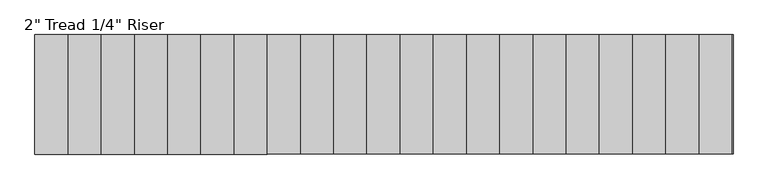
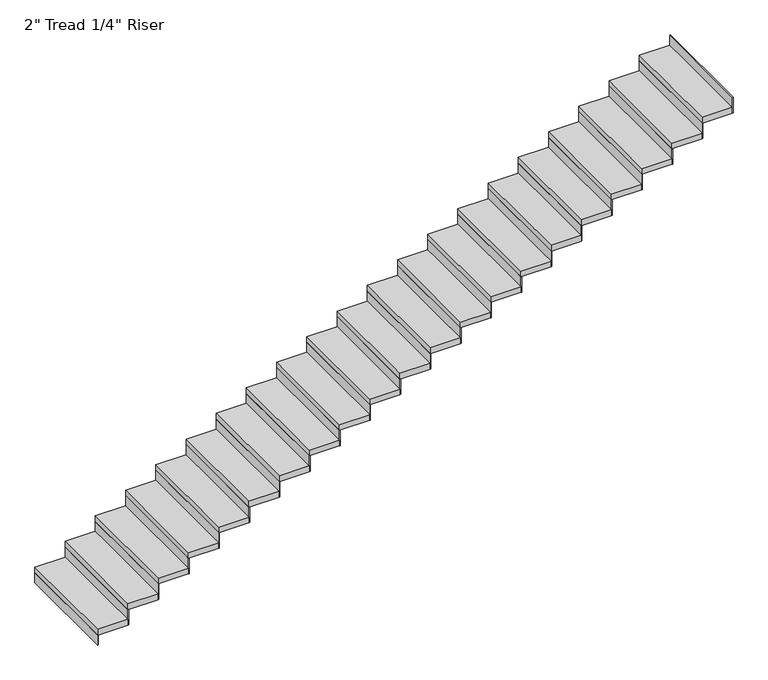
"""IFC4 building model written with IfcOpenShell, lengths in millimetres: stair flight geometry."""

import ifcopenshell
import ifcopenshell.guid

model = None  # the IFC model being written
_history = None  # IfcOwnerHistory: only IFC2X3 demands one
_inside = {}  # id of a spatial element -> (the spatial element, [elements in it])
_under = {}  # id of a project, library or spatial element -> (it, [spatial elements below it])
_declared = {}  # id of a project -> (the project, [libraries it declares])
_typed = {}  # id of a type object -> (the type object, [elements of that type])
_made_of = {}  # id of a material, layer set ... -> (it, [elements and type objects made of it])


def new_model(schema):
    """Start an empty IFC model of exactly this schema.

    Asked for "IFC4X3", IfcOpenShell would pick the latest addendum, in which some entities
    have other attributes; the version numbers below select the first issue.
    IFC2X3 requires an IfcOwnerHistory on every rooted entity: one is made here for all.
    """
    global model, _history
    if schema == "IFC4X3":
        model = ifcopenshell.file(schema_version=(4, 3, 0, 0))
    else:
        model = ifcopenshell.file(schema=schema)
    _inside.clear()
    _under.clear()
    _declared.clear()
    _typed.clear()
    _made_of.clear()
    _history = None
    if model.schema == "IFC2X3":
        org = make("IfcOrganization", Name="unknown")
        user = make(
            "IfcPersonAndOrganization",
            ThePerson=make("IfcPerson", FamilyName="unknown"),
            TheOrganization=org,
        )
        app = make(
            "IfcApplication",
            ApplicationDeveloper=org,
            Version="unknown",
            ApplicationFullName="unknown",
            ApplicationIdentifier="unknown",
        )
        _history = make(
            "IfcOwnerHistory",
            OwningUser=user,
            OwningApplication=app,
            ChangeAction="ADDED",
            CreationDate=0,
        )
    return model


def make(cls, **values):
    """One entity of the class cls with the attributes given. An attribute that is None is left unset."""
    return model.create_entity(
        cls, **{name: value for name, value in values.items() if value is not None}
    )


def rooted(cls, **values):
    """An entity with a GlobalId (a new one), such as an element, a storey or a relation."""
    return make(cls, GlobalId=ifcopenshell.guid.new(), OwnerHistory=_history, **values)


def si_unit(unit_type, name, prefix=None):
    """IfcSIUnit, for example si_unit("LENGTHUNIT", "METRE", prefix="MILLI")."""
    return make("IfcSIUnit", UnitType=unit_type, Prefix=prefix, Name=name)


def assignment(units):
    """IfcUnitAssignment: the units of a project."""
    return None if units is None else make("IfcUnitAssignment", Units=units)


def point(xyz):
    """IfcCartesianPoint."""
    return None if xyz is None else make("IfcCartesianPoint", Coordinates=xyz)


def direction(xyz):
    """IfcDirection."""
    return None if xyz is None else make("IfcDirection", DirectionRatios=xyz)


def frame(location, z_axis=None, x_axis=None):
    """IfcAxis2Placement3D, a coordinate frame: its origin and axes. An axis left out is left unset."""
    return make(
        "IfcAxis2Placement3D",
        Location=point(location),
        Axis=direction(z_axis),
        RefDirection=direction(x_axis),
    )


def origin():
    """The frame at (0, 0, 0) with its axes left unset."""
    return frame((0.0, 0.0, 0.0))


def origin_with_axes():
    """The frame at (0, 0, 0) with the z axis (0, 0, 1) and the x axis (1, 0, 0) written out."""
    return frame((0.0, 0.0, 0.0), z_axis=(0.0, 0.0, 1.0), x_axis=(1.0, 0.0, 0.0))


def place(relative_to, where):
    """IfcLocalPlacement: puts the frame where relative to a parent placement (None: the world)."""
    return make(
        "IfcLocalPlacement", PlacementRelTo=relative_to, RelativePlacement=where
    )


def context(
    kind, dimensions, precision=None, world=None, true_north=None, identifier=None
):
    """IfcGeometricRepresentationContext, for example the 3D "Model" context."""
    return make(
        "IfcGeometricRepresentationContext",
        ContextIdentifier=identifier,
        ContextType=kind,
        CoordinateSpaceDimension=dimensions,
        Precision=precision,
        WorldCoordinateSystem=world,
        TrueNorth=true_north,
    )


def project(units=None, contexts=None):
    """IfcProject with its units and contexts."""
    return rooted(
        "IfcProject",
        Name="project",
        RepresentationContexts=contexts,
        UnitsInContext=assignment(units),
    )


def spatial(cls, under=None, at=None, **own):
    """A site, building, storey or space (cls), placed at a placement, below another one or the project."""
    s = rooted(cls, ObjectPlacement=at, **own)
    if under is not None:
        _under.setdefault(under.id(), (under, []))[1].append(s)
    return s


def polyline(points):
    """IfcPolyline through the points."""
    return make("IfcPolyline", Points=[point(p) for p in points])


def outline(outer, holes=None, kind="AREA"):
    """IfcArbitraryClosedProfileDef: a profile drawn as a closed curve; with holes, ...WithVoids."""
    if holes is None:
        return make("IfcArbitraryClosedProfileDef", ProfileType=kind, OuterCurve=outer)
    return make(
        "IfcArbitraryProfileDefWithVoids",
        ProfileType=kind,
        OuterCurve=outer,
        InnerCurves=holes,
    )


def extrude(swept, where, along, depth):
    """IfcExtrudedAreaSolid: the profile swept, set in the frame where, extruded along a direction by depth."""
    return make(
        "IfcExtrudedAreaSolid",
        SweptArea=swept,
        Position=where,
        ExtrudedDirection=direction(along),
        Depth=depth,
    )


def shape(context_of_items, identifier, shape_type, items):
    """IfcShapeRepresentation: the items that make up one representation, for example the "Body"."""
    return make(
        "IfcShapeRepresentation",
        ContextOfItems=context_of_items,
        RepresentationIdentifier=identifier,
        RepresentationType=shape_type,
        Items=items,
    )


def source(mapping_origin, context_of_items, identifier, shape_type, items):
    """IfcRepresentationMap: a shape defined once, which mapped items show again and again."""
    return make(
        "IfcRepresentationMap",
        MappingOrigin=mapping_origin,
        MappedRepresentation=shape(context_of_items, identifier, shape_type, items),
    )


def transform(
    local_origin,
    x_axis=None,
    y_axis=None,
    z_axis=None,
    scale=None,
    scale2=None,
    scale3=None,
    uniform=True,
):
    """IfcCartesianTransformationOperator3D, or its non-uniform kind. x_axis, y_axis, z_axis: its Axis1, 2, 3."""
    if uniform:
        return make(
            "IfcCartesianTransformationOperator3D",
            Axis1=direction(x_axis),
            Axis2=direction(y_axis),
            LocalOrigin=point(local_origin),
            Scale=scale,
            Axis3=direction(z_axis),
        )
    return make(
        "IfcCartesianTransformationOperator3DnonUniform",
        Axis1=direction(x_axis),
        Axis2=direction(y_axis),
        LocalOrigin=point(local_origin),
        Scale=scale,
        Axis3=direction(z_axis),
        Scale2=scale2,
        Scale3=scale3,
    )


def mapped(mapping_source, mapping_target):
    """IfcMappedItem: shows the shape of a source again, moved by a transform."""
    return make(
        "IfcMappedItem", MappingSource=mapping_source, MappingTarget=mapping_target
    )


def made_of(thing, what):
    """Note that an element or type object is made of a material, layer set ...; save() writes the relation."""
    if what is not None:
        _made_of.setdefault(what.id(), (what, []))[1].append(thing)
    return thing


def element(
    cls,
    number,
    at=None,
    inside=None,
    cuts=None,
    type_object=None,
    material=None,
    context=None,
    identifier="Body",
    shape_type=None,
    held_by="IfcProductDefinitionShape",
    body=None,
    shapes=None,
    **own,
):
    """One element of the class cls, such as IfcWall. Its Tag is "e" and its number.

    at: its placement. inside: the storey or other place that contains it. cuts: it is an
    opening in that element (IfcRelVoidsElement). A single representation is given by context,
    identifier, shape_type and body (its items); several are given by shapes. held_by: the class
    of the entity that holds the representations. save() writes the other relations.
    """
    e = rooted(cls, Tag="e%d" % number, ObjectPlacement=at, **own)
    if body is not None:
        shapes = [shape(context, identifier, shape_type, body)]
    if shapes is not None:
        e.Representation = make(held_by, Representations=shapes)
    if inside is not None:
        _inside.setdefault(inside.id(), (inside, []))[1].append(e)
    if cuts is not None:
        rooted(
            "IfcRelVoidsElement", RelatingBuildingElement=cuts, RelatedOpeningElement=e
        )
    if type_object is not None:
        _typed.setdefault(type_object.id(), (type_object, []))[1].append(e)
    return made_of(e, material)


def aggregate(whole, parts):
    """IfcRelAggregates: a whole, such as a stair, and the parts it consists of."""
    return rooted("IfcRelAggregates", RelatingObject=whole, RelatedObjects=parts)


def save(model, path):
    """Write the relations noted so far, then the file.

    IfcRelAggregates (storeys below a building ...), IfcRelContainedInSpatialStructure (elements
    in a storey), IfcRelDefinesByType, IfcRelAssociatesMaterial and IfcRelDeclares: one each for
    every whole, place, type object, material and project.
    """
    for whole, parts in _under.values():
        aggregate(whole, parts)
    for where, things in _inside.values():
        rooted(
            "IfcRelContainedInSpatialStructure",
            RelatedElements=things,
            RelatingStructure=where,
        )
    for kind, things in _typed.values():
        rooted("IfcRelDefinesByType", RelatedObjects=things, RelatingType=kind)
    for what, things in _made_of.values():
        rooted("IfcRelAssociatesMaterial", RelatedObjects=things, RelatingMaterial=what)
    for by, libraries in _declared.values():
        rooted("IfcRelDeclares", RelatingContext=by, RelatedDefinitions=libraries)
    model.write(path)


def stair_flight_cde1ea60(model_context):
    return source(origin(), model_context, "Body", "SweptSolid", [
        extrude(outline(polyline([(-14491.7664794, -52193.6426165), (-14498.1164794, -52193.6426165), (-14498.1164794, -51279.2426165), (-14491.7664794, -51279.2426165), (-14491.7664794, -52193.6426165)])), origin_with_axes(), (0.0, 0.0, 1.0), 87.7454545),
        extrude(outline(polyline([(-14244.1164794, -51279.2426165), (-14244.1164794, -52193.6426165), (-14498.1164794, -52193.6426165), (-14498.1164794, -51279.2426165), (-14244.1164794, -51279.2426165)])), frame((0.0, 0.0, 87.7454545), z_axis=(0.0, 0.0, 1.0), x_axis=(1.0, 0.0, 0.0)), (0.0, 0.0, 1.0), 50.8),
        extrude(outline(polyline([(-14237.7664794, -52193.6426165), (-14244.1164794, -52193.6426165), (-14244.1164794, -51279.2426165), (-14237.7664794, -51279.2426165), (-14237.7664794, -52193.6426165)])), frame((0.0, 0.0, 87.7454545), z_axis=(0.0, 0.0, 1.0), x_axis=(1.0, 0.0, 0.0)), (0.0, 0.0, 1.0), 138.5454545),
        extrude(outline(polyline([(-13990.1164794, -51279.2426165), (-13990.1164794, -52193.6426165), (-14244.1164794, -52193.6426165), (-14244.1164794, -51279.2426165), (-13990.1164794, -51279.2426165)])), frame((0.0, 0.0, 226.2909091), z_axis=(0.0, 0.0, 1.0), x_axis=(1.0, 0.0, 0.0)), (0.0, 0.0, 1.0), 50.8),
        extrude(outline(polyline([(-13983.7664794, -52193.6426165), (-13990.1164794, -52193.6426165), (-13990.1164794, -51279.2426165), (-13983.7664794, -51279.2426165), (-13983.7664794, -52193.6426165)])), frame((0.0, 0.0, 226.2909091), z_axis=(0.0, 0.0, 1.0), x_axis=(1.0, 0.0, 0.0)), (0.0, 0.0, 1.0), 138.5454545),
        extrude(outline(polyline([(-13736.1164794, -51279.2426165), (-13736.1164794, -52193.6426165), (-13990.1164794, -52193.6426165), (-13990.1164794, -51279.2426165), (-13736.1164794, -51279.2426165)])), frame((0.0, 0.0, 364.8363636), z_axis=(0.0, 0.0, 1.0), x_axis=(1.0, 0.0, 0.0)), (0.0, 0.0, 1.0), 50.8),
        extrude(outline(polyline([(-13729.7664794, -52193.6426165), (-13736.1164794, -52193.6426165), (-13736.1164794, -51279.2426165), (-13729.7664794, -51279.2426165), (-13729.7664794, -52193.6426165)])), frame((0.0, 0.0, 364.8363636), z_axis=(0.0, 0.0, 1.0), x_axis=(1.0, 0.0, 0.0)), (0.0, 0.0, 1.0), 138.5454545),
        extrude(outline(polyline([(-13482.1164794, -51279.2426165), (-13482.1164794, -52193.6426165), (-13736.1164794, -52193.6426165), (-13736.1164794, -51279.2426165), (-13482.1164794, -51279.2426165)])), frame((0.0, 0.0, 503.3818182), z_axis=(0.0, 0.0, 1.0), x_axis=(1.0, 0.0, 0.0)), (0.0, 0.0, 1.0), 50.8),
        extrude(outline(polyline([(-13475.7664794, -52193.6426165), (-13482.1164794, -52193.6426165), (-13482.1164794, -51279.2426165), (-13475.7664794, -51279.2426165), (-13475.7664794, -52193.6426165)])), frame((0.0, 0.0, 503.3818182), z_axis=(0.0, 0.0, 1.0), x_axis=(1.0, 0.0, 0.0)), (0.0, 0.0, 1.0), 138.5454545),
        extrude(outline(polyline([(-13228.1164794, -51279.2426165), (-13228.1164794, -52193.6426165), (-13482.1164794, -52193.6426165), (-13482.1164794, -51279.2426165), (-13228.1164794, -51279.2426165)])), frame((0.0, 0.0, 641.9272727), z_axis=(0.0, 0.0, 1.0), x_axis=(1.0, 0.0, 0.0)), (0.0, 0.0, 1.0), 50.8),
        extrude(outline(polyline([(-13221.7664794, -52193.6426165), (-13228.1164794, -52193.6426165), (-13228.1164794, -51279.2426165), (-13221.7664794, -51279.2426165), (-13221.7664794, -52193.6426165)])), frame((0.0, 0.0, 641.9272727), z_axis=(0.0, 0.0, 1.0), x_axis=(1.0, 0.0, 0.0)), (0.0, 0.0, 1.0), 138.5454545),
        extrude(outline(polyline([(-12974.1164794, -51279.2426165), (-12974.1164794, -52193.6426165), (-13228.1164794, -52193.6426165), (-13228.1164794, -51279.2426165), (-12974.1164794, -51279.2426165)])), frame((0.0, 0.0, 780.4727273), z_axis=(0.0, 0.0, 1.0), x_axis=(1.0, 0.0, 0.0)), (0.0, 0.0, 1.0), 50.8),
        extrude(outline(polyline([(-12967.7664794, -52193.6426165), (-12974.1164794, -52193.6426165), (-12974.1164794, -51279.2426165), (-12967.7664794, -51279.2426165), (-12967.7664794, -52193.6426165)])), frame((0.0, 0.0, 780.4727273), z_axis=(0.0, 0.0, 1.0), x_axis=(1.0, 0.0, 0.0)), (0.0, 0.0, 1.0), 138.5454545),
        extrude(outline(polyline([(-12720.1164794, -51279.2426165), (-12720.1164794, -52193.6426165), (-12974.1164794, -52193.6426165), (-12974.1164794, -51279.2426165), (-12720.1164794, -51279.2426165)])), frame((0.0, 0.0, 919.0181818), z_axis=(0.0, 0.0, 1.0), x_axis=(1.0, 0.0, 0.0)), (0.0, 0.0, 1.0), 50.8),
        extrude(outline(polyline([(-12713.7664794, -52193.6426165), (-12720.1164794, -52193.6426165), (-12720.1164794, -51279.2426165), (-12713.7664794, -51279.2426165), (-12713.7664794, -52193.6426165)])), frame((0.0, 0.0, 919.0181818), z_axis=(0.0, 0.0, 1.0), x_axis=(1.0, 0.0, 0.0)), (0.0, 0.0, 1.0), 138.5454545),
        extrude(outline(polyline([(-12466.1164794, -51279.2426165), (-12466.1164794, -52193.6426165), (-12720.1164794, -52193.6426165), (-12720.1164794, -51279.2426165), (-12466.1164794, -51279.2426165)])), frame((0.0, 0.0, 1057.5636364), z_axis=(0.0, 0.0, 1.0), x_axis=(1.0, 0.0, 0.0)), (0.0, 0.0, 1.0), 50.8),
        extrude(outline(polyline([(-12459.7664794, -52193.6426165), (-12466.1164794, -52193.6426165), (-12466.1164794, -51279.2426165), (-12459.7664794, -51279.2426165), (-12459.7664794, -52193.6426165)])), frame((0.0, 0.0, 1057.5636364), z_axis=(0.0, 0.0, 1.0), x_axis=(1.0, 0.0, 0.0)), (0.0, 0.0, 1.0), 138.5454545),
        extrude(outline(polyline([(-12212.1164794, -51279.2426165), (-12212.1164794, -52193.6426165), (-12466.1164794, -52193.6426165), (-12466.1164794, -51279.2426165), (-12212.1164794, -51279.2426165)])), frame((0.0, 0.0, 1196.1090909), z_axis=(0.0, 0.0, 1.0), x_axis=(1.0, 0.0, 0.0)), (0.0, 0.0, 1.0), 50.8),
        extrude(outline(polyline([(-12205.7664794, -52193.6426165), (-12212.1164794, -52193.6426165), (-12212.1164794, -51279.2426165), (-12205.7664794, -51279.2426165), (-12205.7664794, -52193.6426165)])), frame((0.0, 0.0, 1196.1090909), z_axis=(0.0, 0.0, 1.0), x_axis=(1.0, 0.0, 0.0)), (0.0, 0.0, 1.0), 138.5454545),
        extrude(outline(polyline([(-11958.1164794, -51279.2426165), (-11958.1164794, -52193.6426165), (-12212.1164794, -52193.6426165), (-12212.1164794, -51279.2426165), (-11958.1164794, -51279.2426165)])), frame((0.0, 0.0, 1334.6545455), z_axis=(0.0, 0.0, 1.0), x_axis=(1.0, 0.0, 0.0)), (0.0, 0.0, 1.0), 50.8),
        extrude(outline(polyline([(-11951.7664794, -52193.6426165), (-11958.1164794, -52193.6426165), (-11958.1164794, -51279.2426165), (-11951.7664794, -51279.2426165), (-11951.7664794, -52193.6426165)])), frame((0.0, 0.0, 1334.6545455), z_axis=(0.0, 0.0, 1.0), x_axis=(1.0, 0.0, 0.0)), (0.0, 0.0, 1.0), 138.5454545),
        extrude(outline(polyline([(-11704.1164794, -51279.2426165), (-11704.1164794, -52193.6426165), (-11958.1164794, -52193.6426165), (-11958.1164794, -51279.2426165), (-11704.1164794, -51279.2426165)])), frame((0.0, 0.0, 1473.2), z_axis=(0.0, 0.0, 1.0), x_axis=(1.0, 0.0, 0.0)), (0.0, 0.0, 1.0), 50.8),
        extrude(outline(polyline([(-11697.7664794, -52193.6426165), (-11704.1164794, -52193.6426165), (-11704.1164794, -51279.2426165), (-11697.7664794, -51279.2426165), (-11697.7664794, -52193.6426165)])), frame((0.0, 0.0, 1473.2), z_axis=(0.0, 0.0, 1.0), x_axis=(1.0, 0.0, 0.0)), (0.0, 0.0, 1.0), 138.5454545),
        extrude(outline(polyline([(-11450.1164794, -51279.2426165), (-11450.1164794, -52193.6426165), (-11704.1164794, -52193.6426165), (-11704.1164794, -51279.2426165), (-11450.1164794, -51279.2426165)])), frame((0.0, 0.0, 1611.7454545), z_axis=(0.0, 0.0, 1.0), x_axis=(1.0, 0.0, 0.0)), (0.0, 0.0, 1.0), 50.8),
        extrude(outline(polyline([(-11443.7664794, -52193.6426165), (-11450.1164794, -52193.6426165), (-11450.1164794, -51279.2426165), (-11443.7664794, -51279.2426165), (-11443.7664794, -52193.6426165)])), frame((0.0, 0.0, 1611.7454545), z_axis=(0.0, 0.0, 1.0), x_axis=(1.0, 0.0, 0.0)), (0.0, 0.0, 1.0), 138.5454545),
        extrude(outline(polyline([(-11196.1164794, -51279.2426165), (-11196.1164794, -52193.6426165), (-11450.1164794, -52193.6426165), (-11450.1164794, -51279.2426165), (-11196.1164794, -51279.2426165)])), frame((0.0, 0.0, 1750.2909091), z_axis=(0.0, 0.0, 1.0), x_axis=(1.0, 0.0, 0.0)), (0.0, 0.0, 1.0), 50.8),
        extrude(outline(polyline([(-11189.7664794, -52193.6426165), (-11196.1164794, -52193.6426165), (-11196.1164794, -51279.2426165), (-11189.7664794, -51279.2426165), (-11189.7664794, -52193.6426165)])), frame((0.0, 0.0, 1750.2909091), z_axis=(0.0, 0.0, 1.0), x_axis=(1.0, 0.0, 0.0)), (0.0, 0.0, 1.0), 138.5454545),
        extrude(outline(polyline([(-10942.1164794, -51279.2426165), (-10942.1164794, -52193.6426165), (-11196.1164794, -52193.6426165), (-11196.1164794, -51279.2426165), (-10942.1164794, -51279.2426165)])), frame((0.0, 0.0, 1888.8363636), z_axis=(0.0, 0.0, 1.0), x_axis=(1.0, 0.0, 0.0)), (0.0, 0.0, 1.0), 50.8),
        extrude(outline(polyline([(-10935.7664794, -52193.6426165), (-10942.1164794, -52193.6426165), (-10942.1164794, -51279.2426165), (-10935.7664794, -51279.2426165), (-10935.7664794, -52193.6426165)])), frame((0.0, 0.0, 1888.8363636), z_axis=(0.0, 0.0, 1.0), x_axis=(1.0, 0.0, 0.0)), (0.0, 0.0, 1.0), 138.5454545),
        extrude(outline(polyline([(-10688.1164794, -51279.2426165), (-10688.1164794, -52193.6426165), (-10942.1164794, -52193.6426165), (-10942.1164794, -51279.2426165), (-10688.1164794, -51279.2426165)])), frame((0.0, 0.0, 2027.3818182), z_axis=(0.0, 0.0, 1.0), x_axis=(1.0, 0.0, 0.0)), (0.0, 0.0, 1.0), 50.8),
        extrude(outline(polyline([(-10681.7664794, -52193.6426165), (-10688.1164794, -52193.6426165), (-10688.1164794, -51279.2426165), (-10681.7664794, -51279.2426165), (-10681.7664794, -52193.6426165)])), frame((0.0, 0.0, 2027.3818182), z_axis=(0.0, 0.0, 1.0), x_axis=(1.0, 0.0, 0.0)), (0.0, 0.0, 1.0), 138.5454545),
        extrude(outline(polyline([(-10434.1164794, -51279.2426165), (-10434.1164794, -52193.6426165), (-10688.1164794, -52193.6426165), (-10688.1164794, -51279.2426165), (-10434.1164794, -51279.2426165)])), frame((0.0, 0.0, 2165.9272727), z_axis=(0.0, 0.0, 1.0), x_axis=(1.0, 0.0, 0.0)), (0.0, 0.0, 1.0), 50.8),
        extrude(outline(polyline([(-10427.7664794, -52193.6426165), (-10434.1164794, -52193.6426165), (-10434.1164794, -51279.2426165), (-10427.7664794, -51279.2426165), (-10427.7664794, -52193.6426165)])), frame((0.0, 0.0, 2165.9272727), z_axis=(0.0, 0.0, 1.0), x_axis=(1.0, 0.0, 0.0)), (0.0, 0.0, 1.0), 138.5454545),
        extrude(outline(polyline([(-10180.1164794, -51279.2426165), (-10180.1164794, -52193.6426165), (-10434.1164794, -52193.6426165), (-10434.1164794, -51279.2426165), (-10180.1164794, -51279.2426165)])), frame((0.0, 0.0, 2304.4727273), z_axis=(0.0, 0.0, 1.0), x_axis=(1.0, 0.0, 0.0)), (0.0, 0.0, 1.0), 50.8),
        extrude(outline(polyline([(-10173.7664794, -52193.6426165), (-10180.1164794, -52193.6426165), (-10180.1164794, -51279.2426165), (-10173.7664794, -51279.2426165), (-10173.7664794, -52193.6426165)])), frame((0.0, 0.0, 2304.4727273), z_axis=(0.0, 0.0, 1.0), x_axis=(1.0, 0.0, 0.0)), (0.0, 0.0, 1.0), 138.5454545),
        extrude(outline(polyline([(-9926.1164794, -51279.2426165), (-9926.1164794, -52193.6426165), (-10180.1164794, -52193.6426165), (-10180.1164794, -51279.2426165), (-9926.1164794, -51279.2426165)])), frame((0.0, 0.0, 2443.0181818), z_axis=(0.0, 0.0, 1.0), x_axis=(1.0, 0.0, 0.0)), (0.0, 0.0, 1.0), 50.8),
        extrude(outline(polyline([(-9919.7664794, -52193.6426165), (-9926.1164794, -52193.6426165), (-9926.1164794, -51279.2426165), (-9919.7664794, -51279.2426165), (-9919.7664794, -52193.6426165)])), frame((0.0, 0.0, 2443.0181818), z_axis=(0.0, 0.0, 1.0), x_axis=(1.0, 0.0, 0.0)), (0.0, 0.0, 1.0), 138.5454545),
        extrude(outline(polyline([(-9672.1164794, -51279.2426165), (-9672.1164794, -52193.6426165), (-9926.1164794, -52193.6426165), (-9926.1164794, -51279.2426165), (-9672.1164794, -51279.2426165)])), frame((0.0, 0.0, 2581.5636364), z_axis=(0.0, 0.0, 1.0), x_axis=(1.0, 0.0, 0.0)), (0.0, 0.0, 1.0), 50.8),
        extrude(outline(polyline([(-9665.7664794, -52193.6426165), (-9672.1164794, -52193.6426165), (-9672.1164794, -51279.2426165), (-9665.7664794, -51279.2426165), (-9665.7664794, -52193.6426165)])), frame((0.0, 0.0, 2581.5636364), z_axis=(0.0, 0.0, 1.0), x_axis=(1.0, 0.0, 0.0)), (0.0, 0.0, 1.0), 138.5454545),
        extrude(outline(polyline([(-9418.1164794, -51279.2426165), (-9418.1164794, -52193.6426165), (-9672.1164794, -52193.6426165), (-9672.1164794, -51279.2426165), (-9418.1164794, -51279.2426165)])), frame((0.0, 0.0, 2720.1090909), z_axis=(0.0, 0.0, 1.0), x_axis=(1.0, 0.0, 0.0)), (0.0, 0.0, 1.0), 50.8),
        extrude(outline(polyline([(-9411.7664794, -52193.6426165), (-9418.1164794, -52193.6426165), (-9418.1164794, -51279.2426165), (-9411.7664794, -51279.2426165), (-9411.7664794, -52193.6426165)])), frame((0.0, 0.0, 2720.1090909), z_axis=(0.0, 0.0, 1.0), x_axis=(1.0, 0.0, 0.0)), (0.0, 0.0, 1.0), 138.5454545),
        extrude(outline(polyline([(-9157.7664794, -52193.6426165), (-9164.1164794, -52193.6426165), (-9164.1164794, -51279.2426165), (-9157.7664794, -51279.2426165), (-9157.7664794, -52193.6426165)])), frame((0.0, 0.0, 2858.6545455), z_axis=(0.0, 0.0, 1.0), x_axis=(1.0, 0.0, 0.0)), (0.0, 0.0, 1.0), 138.5454545),
        extrude(outline(polyline([(-9164.1164794, -51279.2426165), (-9164.1164794, -52193.6426165), (-9418.1164794, -52193.6426165), (-9418.1164794, -51279.2426165), (-9164.1164794, -51279.2426165)])), frame((0.0, 0.0, 2858.6545455), z_axis=(0.0, 0.0, 1.0), x_axis=(1.0, 0.0, 0.0)), (0.0, 0.0, 1.0), 50.8),
    ])


if __name__ == "__main__":
    model = new_model("IFC4")
    model_context = context("Model", 3, world=origin())
    ifc_project = project(units=[si_unit("LENGTHUNIT", "METRE", prefix="MILLI")], contexts=[model_context])
    site = spatial("IfcSite", under=ifc_project)
    building = spatial("IfcBuilding", under=site)
    placement = place(None, origin())
    stair_flight_shape = stair_flight_cde1ea60(model_context)
    element("IfcStairFlight", 1, ObjectType="2\" Tread 1/4\" Riser", at=placement, inside=building, context=model_context, shape_type="MappedRepresentation", body=[
        mapped(stair_flight_shape, transform((0.0, 0.0, 0.0), x_axis=(1.0, 0.0, 0.0), y_axis=(0.0, 1.0, 0.0), z_axis=(0.0, 0.0, 1.0))),
    ])
    save(model, "model.ifc")
